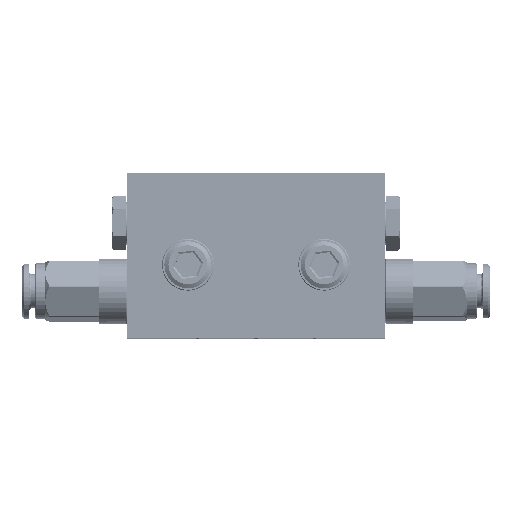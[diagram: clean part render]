
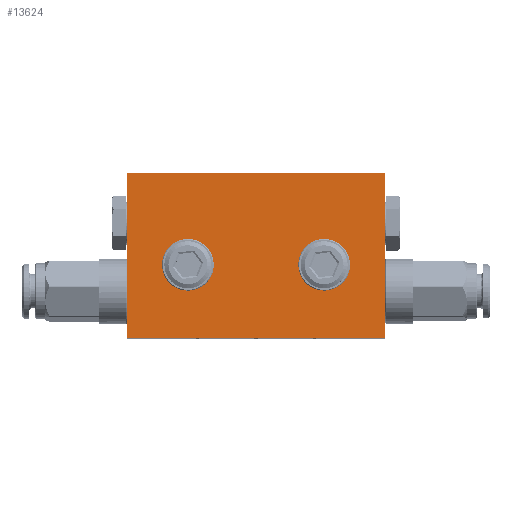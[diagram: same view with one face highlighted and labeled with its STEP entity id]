
A CAD part, top view. The second image highlights one B-rep face of the part: STEP entity #13624.
In plain terms, the highlighted planar face has unit normal (0, 0, 1) as drawn and (0, 0, -1) by its records, which use the part's own axes.
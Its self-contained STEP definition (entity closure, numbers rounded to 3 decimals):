
#313 = DIRECTION ( 'NONE',  ( 0., 0., -1. ) ) ;
#1190 = VERTEX_POINT ( 'NONE', #7788 ) ;
#1916 = VERTEX_POINT ( 'NONE', #23059 ) ;
#3079 = EDGE_CURVE ( 'NONE', #40740, #40740, #43614, .T. ) ;
#3677 = CARTESIAN_POINT ( 'NONE',  ( 11.4, -15.5, -4.85 ) ) ;
#7321 = ORIENTED_EDGE ( 'NONE', *, *, #38936, .F. ) ;
#7788 = CARTESIAN_POINT ( 'NONE',  ( 27.5, -35., -4.85 ) ) ;
#7877 = EDGE_CURVE ( 'NONE', #1190, #15710, #15315, .T. ) ;
#9270 = CARTESIAN_POINT ( 'NONE',  ( -11.4, -15.5, -4.85 ) ) ;
#10309 = CARTESIAN_POINT ( 'NONE',  ( -27.5, -35., -4.85 ) ) ;
#11073 = PLANE ( 'NONE',  #19765 ) ;
#11149 = DIRECTION ( 'NONE',  ( -1., 0., 0. ) ) ;
#13624 = ADVANCED_FACE ( 'NONE', ( #15228, #22136, #23099 ), #11073, .F. ) ;
#15228 = FACE_BOUND ( 'NONE', #31894, .T. ) ;
#15315 = LINE ( 'NONE', #30303, #16107 ) ;
#15710 = VERTEX_POINT ( 'NONE', #22720 ) ;
#15939 = DIRECTION ( 'NONE',  ( 0., 0., 1. ) ) ;
#16107 = VECTOR ( 'NONE', #38084, 1000. ) ;
#16158 = EDGE_CURVE ( 'NONE', #15710, #1916, #24287, .T. ) ;
#17225 = CARTESIAN_POINT ( 'NONE',  ( -27.5, 0., -4.85 ) ) ;
#17416 = LINE ( 'NONE', #32861, #44071 ) ;
#18516 = DIRECTION ( 'NONE',  ( 0., 0., -1. ) ) ;
#19765 = AXIS2_PLACEMENT_3D ( 'NONE', #23577, #15939, #30919 ) ;
#20717 = ORIENTED_EDGE ( 'NONE', *, *, #3079, .F. ) ;
#21374 = DIRECTION ( 'NONE',  ( 1., 0., 0. ) ) ;
#22136 = FACE_BOUND ( 'NONE', #43420, .T. ) ;
#22720 = CARTESIAN_POINT ( 'NONE',  ( 27.5, 0., -4.85 ) ) ;
#23059 = CARTESIAN_POINT ( 'NONE',  ( -27.5, 0., -4.85 ) ) ;
#23099 = FACE_OUTER_BOUND ( 'NONE', #36026, .T. ) ;
#23577 = CARTESIAN_POINT ( 'NONE',  ( 0., 0., -4.85 ) ) ;
#24087 = AXIS2_PLACEMENT_3D ( 'NONE', #26390, #18516, #11149 ) ;
#24287 = LINE ( 'NONE', #42616, #27511 ) ;
#26390 = CARTESIAN_POINT ( 'NONE',  ( 14.5, -15.5, -4.85 ) ) ;
#26928 = CARTESIAN_POINT ( 'NONE',  ( -14.5, -15.5, -4.85 ) ) ;
#27511 = VECTOR ( 'NONE', #46277, 1000. ) ;
#28785 = LINE ( 'NONE', #17225, #36602 ) ;
#30303 = CARTESIAN_POINT ( 'NONE',  ( 27.5, 0., -4.85 ) ) ;
#30562 = DIRECTION ( 'NONE',  ( 1., 0., 0. ) ) ;
#30919 = DIRECTION ( 'NONE',  ( 1., 0., 0. ) ) ;
#31894 = EDGE_LOOP ( 'NONE', ( #39725 ) ) ;
#32572 = ORIENTED_EDGE ( 'NONE', *, *, #7877, .F. ) ;
#32861 = CARTESIAN_POINT ( 'NONE',  ( 0., -35., -4.85 ) ) ;
#33144 = DIRECTION ( 'NONE',  ( 0., -1., 0. ) ) ;
#34507 = ORIENTED_EDGE ( 'NONE', *, *, #16158, .F. ) ;
#34607 = EDGE_CURVE ( 'NONE', #35849, #1190, #17416, .T. ) ;
#35849 = VERTEX_POINT ( 'NONE', #10309 ) ;
#36026 = EDGE_LOOP ( 'NONE', ( #46150, #7321, #34507, #32572 ) ) ;
#36602 = VECTOR ( 'NONE', #33144, 1000. ) ;
#38084 = DIRECTION ( 'NONE',  ( 0., 1., 0. ) ) ;
#38936 = EDGE_CURVE ( 'NONE', #1916, #35849, #28785, .T. ) ;
#39725 = ORIENTED_EDGE ( 'NONE', *, *, #40435, .F. ) ;
#40435 = EDGE_CURVE ( 'NONE', #46762, #46762, #42176, .T. ) ;
#40740 = VERTEX_POINT ( 'NONE', #3677 ) ;
#42176 = CIRCLE ( 'NONE', #47625, 3.1 ) ;
#42616 = CARTESIAN_POINT ( 'NONE',  ( 0., 0., -4.85 ) ) ;
#43420 = EDGE_LOOP ( 'NONE', ( #20717 ) ) ;
#43614 = CIRCLE ( 'NONE', #24087, 3.1 ) ;
#44071 = VECTOR ( 'NONE', #21374, 1000. ) ;
#46150 = ORIENTED_EDGE ( 'NONE', *, *, #34607, .F. ) ;
#46277 = DIRECTION ( 'NONE',  ( -1., 0., 0. ) ) ;
#46762 = VERTEX_POINT ( 'NONE', #9270 ) ;
#47625 = AXIS2_PLACEMENT_3D ( 'NONE', #26928, #313, #30562 ) ;
